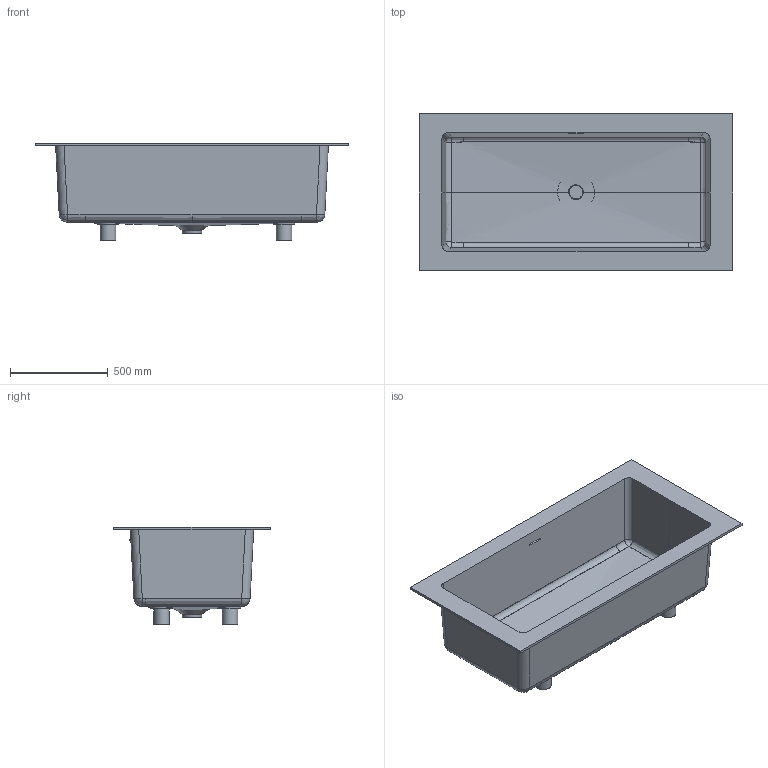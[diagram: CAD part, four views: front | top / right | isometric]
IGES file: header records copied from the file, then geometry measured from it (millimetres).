
Global section: file name: D:\Desktop\GIOVANNI\SCHEDE PRODOTTO\VASCHE\VASCHE DA INCASSO\CRYSTAL INCA\3D\CRYSTAL INCA.igs; native system: Rhinoceros ( Jan 17 2018 ); preprocessor: Trout Lake IGES 012 Jan 17 2018; date: 230526.153235; units: millimetre
Bounding box: 1600 x 800 x 500 mm (x, y, z)
Surface area: 5620674.5 mm2 (no closed solid volume)
Topology: 0 solids, 0 shells, 90 faces, 1294 edges, 1284 vertices
Faces by surface type: bspline 90
